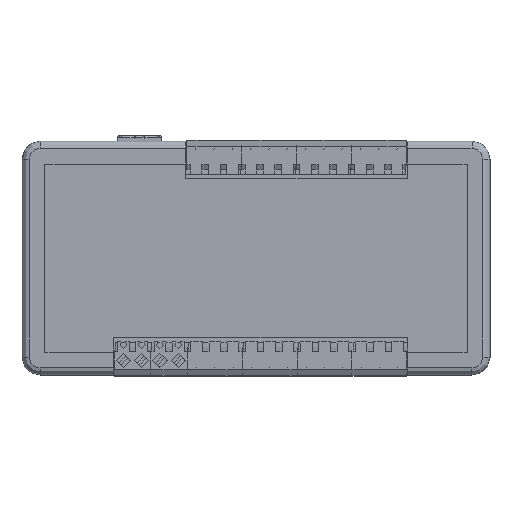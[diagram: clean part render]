
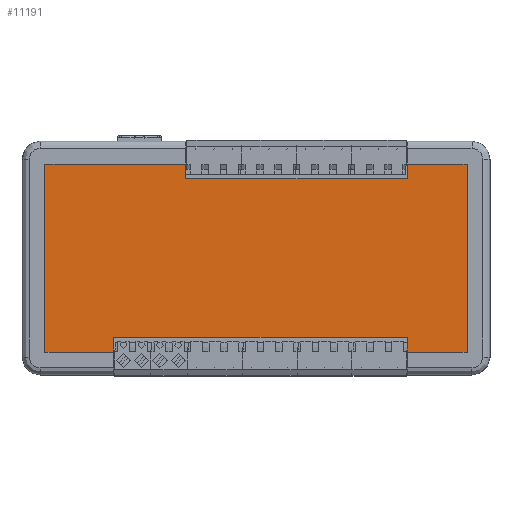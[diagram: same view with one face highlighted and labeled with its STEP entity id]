
A CAD part, top view. The second image highlights one B-rep face of the part: STEP entity #11191.
In plain terms, the highlighted planar face has unit normal (0, 0, 1) as drawn and (0, 0, -1) by its records, which use the part's own axes.
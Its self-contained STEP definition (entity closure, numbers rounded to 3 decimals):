
#970 = CARTESIAN_POINT ( 'NONE',  ( 58.625, 26.125, 1. ) ) ;
#1538 = EDGE_CURVE ( 'NONE', #19093, #20572, #116092, .T. ) ;
#3104 = DIRECTION ( 'NONE',  ( 1., 0., 0. ) ) ;
#5549 = DIRECTION ( 'NONE',  ( 0., -1., 0. ) ) ;
#7276 = ORIENTED_EDGE ( 'NONE', *, *, #78515, .T. ) ;
#11191 = ADVANCED_FACE ( 'NONE', ( #120487 ), #60296, .F. ) ;
#13409 = CARTESIAN_POINT ( 'NONE',  ( -58.625, 26.125, 1. ) ) ;
#14679 = VECTOR ( 'NONE', #37156, 1000. ) ;
#14728 = LINE ( 'NONE', #67482, #117627 ) ;
#15387 = CARTESIAN_POINT ( 'NONE',  ( 42., -22., 1. ) ) ;
#16771 = CARTESIAN_POINT ( 'NONE',  ( -58.625, -26.125, 1. ) ) ;
#17802 = DIRECTION ( 'NONE',  ( -1., 0., 0. ) ) ;
#19093 = VERTEX_POINT ( 'NONE', #106494 ) ;
#20058 = AXIS2_PLACEMENT_3D ( 'NONE', #50244, #39857, #70385 ) ;
#20572 = VERTEX_POINT ( 'NONE', #43850 ) ;
#23405 = DIRECTION ( 'NONE',  ( 1., 0., 0. ) ) ;
#24501 = VECTOR ( 'NONE', #110694, 1000. ) ;
#24675 = VERTEX_POINT ( 'NONE', #41473 ) ;
#26235 = VECTOR ( 'NONE', #107878, 1000. ) ;
#27296 = DIRECTION ( 'NONE',  ( 0., -1., 0. ) ) ;
#27392 = VERTEX_POINT ( 'NONE', #94806 ) ;
#27527 = VERTEX_POINT ( 'NONE', #16771 ) ;
#27902 = EDGE_CURVE ( 'NONE', #24675, #27392, #42941, .T. ) ;
#28421 = LINE ( 'NONE', #104802, #101715 ) ;
#30091 = LINE ( 'NONE', #124954, #106486 ) ;
#31838 = VECTOR ( 'NONE', #41453, 1000. ) ;
#33125 = CARTESIAN_POINT ( 'NONE',  ( 0., -22., 1. ) ) ;
#34862 = LINE ( 'NONE', #33125, #35423 ) ;
#35045 = CARTESIAN_POINT ( 'NONE',  ( -39.5, 26.125, 1. ) ) ;
#35381 = ORIENTED_EDGE ( 'NONE', *, *, #1538, .T. ) ;
#35423 = VECTOR ( 'NONE', #3104, 1000. ) ;
#35741 = VERTEX_POINT ( 'NONE', #35045 ) ;
#37031 = VERTEX_POINT ( 'NONE', #15387 ) ;
#37156 = DIRECTION ( 'NONE',  ( -1., 0., 0. ) ) ;
#38722 = EDGE_CURVE ( 'NONE', #19093, #37031, #34862, .T. ) ;
#39665 = EDGE_CURVE ( 'NONE', #67919, #111228, #114357, .T. ) ;
#39857 = DIRECTION ( 'NONE',  ( 0., 0., 1. ) ) ;
#41453 = DIRECTION ( 'NONE',  ( 0., 1., 0. ) ) ;
#41473 = CARTESIAN_POINT ( 'NONE',  ( -39.5, 22., 1. ) ) ;
#42682 = VECTOR ( 'NONE', #95919, 1000. ) ;
#42941 = LINE ( 'NONE', #85886, #42682 ) ;
#43628 = ORIENTED_EDGE ( 'NONE', *, *, #100060, .T. ) ;
#43850 = CARTESIAN_POINT ( 'NONE',  ( -19.5, -26.125, 1. ) ) ;
#44654 = CARTESIAN_POINT ( 'NONE',  ( -58.625, 26.125, 1. ) ) ;
#47478 = DIRECTION ( 'NONE',  ( 0., 1., 0. ) ) ;
#49490 = VERTEX_POINT ( 'NONE', #44654 ) ;
#50208 = LINE ( 'NONE', #13409, #126672 ) ;
#50244 = CARTESIAN_POINT ( 'NONE',  ( 0., 0., 1. ) ) ;
#51184 = EDGE_CURVE ( 'NONE', #60118, #37031, #28421, .T. ) ;
#53198 = ORIENTED_EDGE ( 'NONE', *, *, #106740, .T. ) ;
#53795 = VECTOR ( 'NONE', #47478, 1000. ) ;
#56738 = EDGE_CURVE ( 'NONE', #111228, #115713, #107151, .T. ) ;
#56944 = LINE ( 'NONE', #117212, #53795 ) ;
#60118 = VERTEX_POINT ( 'NONE', #97795 ) ;
#60132 = ORIENTED_EDGE ( 'NONE', *, *, #106581, .T. ) ;
#60296 = PLANE ( 'NONE',  #20058 ) ;
#62629 = CARTESIAN_POINT ( 'NONE',  ( 42., 26.125, 1. ) ) ;
#64692 = DIRECTION ( 'NONE',  ( 0., 1., 0. ) ) ;
#67482 = CARTESIAN_POINT ( 'NONE',  ( -58.625, -26.125, 1. ) ) ;
#67919 = VERTEX_POINT ( 'NONE', #62629 ) ;
#70385 = DIRECTION ( 'NONE',  ( 1., 0., 0. ) ) ;
#71132 = CARTESIAN_POINT ( 'NONE',  ( 42., 0., 1. ) ) ;
#78500 = ORIENTED_EDGE ( 'NONE', *, *, #89281, .T. ) ;
#78515 = EDGE_CURVE ( 'NONE', #35741, #24675, #30091, .T. ) ;
#83414 = CARTESIAN_POINT ( 'NONE',  ( 58.625, -26.125, 1. ) ) ;
#84398 = ORIENTED_EDGE ( 'NONE', *, *, #38722, .F. ) ;
#84847 = LINE ( 'NONE', #71132, #31838 ) ;
#85886 = CARTESIAN_POINT ( 'NONE',  ( 0., 22., 1. ) ) ;
#86984 = CARTESIAN_POINT ( 'NONE',  ( -19.5, 0., 1. ) ) ;
#89281 = EDGE_CURVE ( 'NONE', #115713, #60118, #91048, .T. ) ;
#90419 = ORIENTED_EDGE ( 'NONE', *, *, #105641, .T. ) ;
#91048 = LINE ( 'NONE', #107297, #14679 ) ;
#92372 = CARTESIAN_POINT ( 'NONE',  ( 58.625, 26.125, 1. ) ) ;
#94180 = EDGE_LOOP ( 'NONE', ( #84398, #35381, #60132, #90419, #43628, #7276, #99120, #53198, #120144, #106953, #78500, #107292 ) ) ;
#94806 = CARTESIAN_POINT ( 'NONE',  ( 42., 22., 1. ) ) ;
#95919 = DIRECTION ( 'NONE',  ( 1., 0., 0. ) ) ;
#97795 = CARTESIAN_POINT ( 'NONE',  ( 42., -26.125, 1. ) ) ;
#99120 = ORIENTED_EDGE ( 'NONE', *, *, #27902, .T. ) ;
#100060 = EDGE_CURVE ( 'NONE', #49490, #35741, #50208, .T. ) ;
#101715 = VECTOR ( 'NONE', #64692, 1000. ) ;
#104802 = CARTESIAN_POINT ( 'NONE',  ( 42., 0., 1. ) ) ;
#105641 = EDGE_CURVE ( 'NONE', #27527, #49490, #56944, .T. ) ;
#106486 = VECTOR ( 'NONE', #5549, 1000. ) ;
#106494 = CARTESIAN_POINT ( 'NONE',  ( -19.5, -22., 1. ) ) ;
#106581 = EDGE_CURVE ( 'NONE', #20572, #27527, #14728, .T. ) ;
#106740 = EDGE_CURVE ( 'NONE', #27392, #67919, #84847, .T. ) ;
#106953 = ORIENTED_EDGE ( 'NONE', *, *, #56738, .T. ) ;
#107151 = LINE ( 'NONE', #970, #24501 ) ;
#107292 = ORIENTED_EDGE ( 'NONE', *, *, #51184, .T. ) ;
#107297 = CARTESIAN_POINT ( 'NONE',  ( -58.625, -26.125, 1. ) ) ;
#107878 = DIRECTION ( 'NONE',  ( 1., 0., 0. ) ) ;
#110694 = DIRECTION ( 'NONE',  ( 0., -1., 0. ) ) ;
#111228 = VERTEX_POINT ( 'NONE', #92372 ) ;
#114357 = LINE ( 'NONE', #117469, #26235 ) ;
#115713 = VERTEX_POINT ( 'NONE', #83414 ) ;
#116092 = LINE ( 'NONE', #86984, #116482 ) ;
#116482 = VECTOR ( 'NONE', #27296, 1000. ) ;
#117212 = CARTESIAN_POINT ( 'NONE',  ( -58.625, 26.125, 1. ) ) ;
#117469 = CARTESIAN_POINT ( 'NONE',  ( -58.625, 26.125, 1. ) ) ;
#117627 = VECTOR ( 'NONE', #17802, 1000. ) ;
#120144 = ORIENTED_EDGE ( 'NONE', *, *, #39665, .T. ) ;
#120487 = FACE_OUTER_BOUND ( 'NONE', #94180, .T. ) ;
#124954 = CARTESIAN_POINT ( 'NONE',  ( -39.5, 0., 1. ) ) ;
#126672 = VECTOR ( 'NONE', #23405, 1000. ) ;
